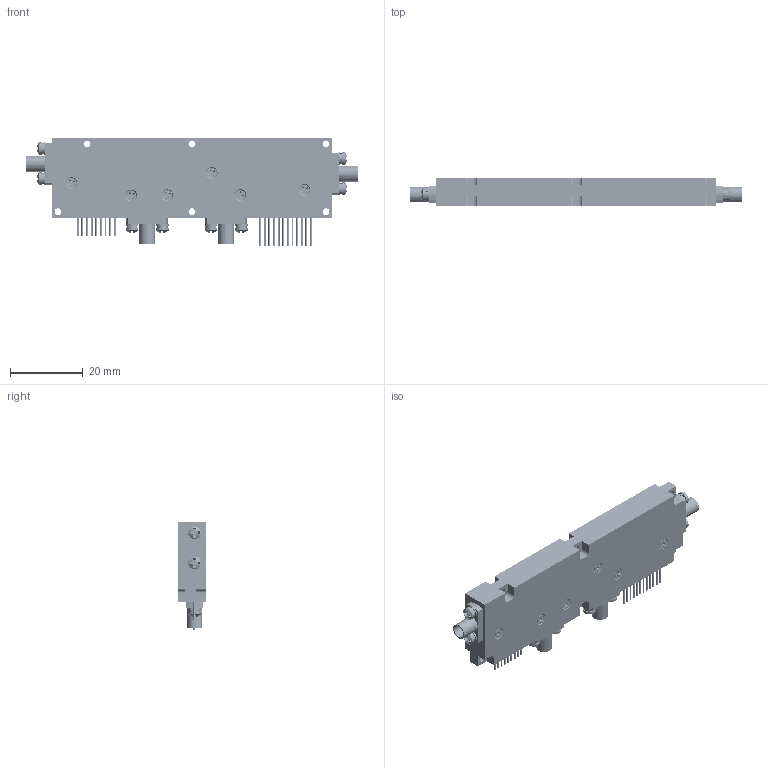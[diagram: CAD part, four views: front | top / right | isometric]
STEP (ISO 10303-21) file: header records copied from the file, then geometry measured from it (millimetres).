
FILE_DESCRIPTION (( 'STEP AP214' ), '1' );
FILE_NAME ('邧砃奻狟曹け.STEP', '2026-09-04T05:16:18', ( 'China' ), ( 'Microsoft' ), 'SwSTEP 2.0', 'SolidWorks 2024', '' );
FILE_SCHEMA (( 'AUTOMOTIVE_DESIGN' ));
Length unit declared in the file: millimetre
Products named in the file (9): 双向上下变频壳体; SMP-JFD2_1; GB9074.4十字槽盘头组合螺钉304不锈钢M2X5; 双向上下变频下盖板; lp12-0.5-1.27(12-2.8); GB819十字槽沉头螺钉304不锈钢M1.6X4; 双向上下变频上盖板; 双向上下变频; LP9-1.27-2013_1
Assembly tree (41 placements, depth 2):
  双向上下变频
    双向上下变频壳体
    双向上下变频上盖板
    双向上下变频下盖板
    GB819十字槽沉头螺钉304不锈钢M1.6X4  x24
    LP9-1.27-2013_1
    SMP-JFD2_1  x4
    lp12-0.5-1.27(12-2.8)
    GB9074.4十字槽盘头组合螺钉304不锈钢M2X5  x8
Bounding box: 91 x 7.7 x 29.7 mm (x, y, z)
Volume: 13466.4 mm3; surface area: 15263.4 mm2
Topology: 41 solids, 41 shells, 2196 faces, 5876 edges, 3864 vertices
Faces by surface type: cylinder 1214, plane 774, cone 96, bspline 96, torus 16
Entity records: 23052 total; most frequent: CARTESIAN_POINT 6467, DIRECTION 3528, ORIENTED_EDGE 3330, EDGE_CURVE 1665, AXIS2_PLACEMENT_3D 1322, VERTEX_POINT 1092, VECTOR 884, LINE 884
